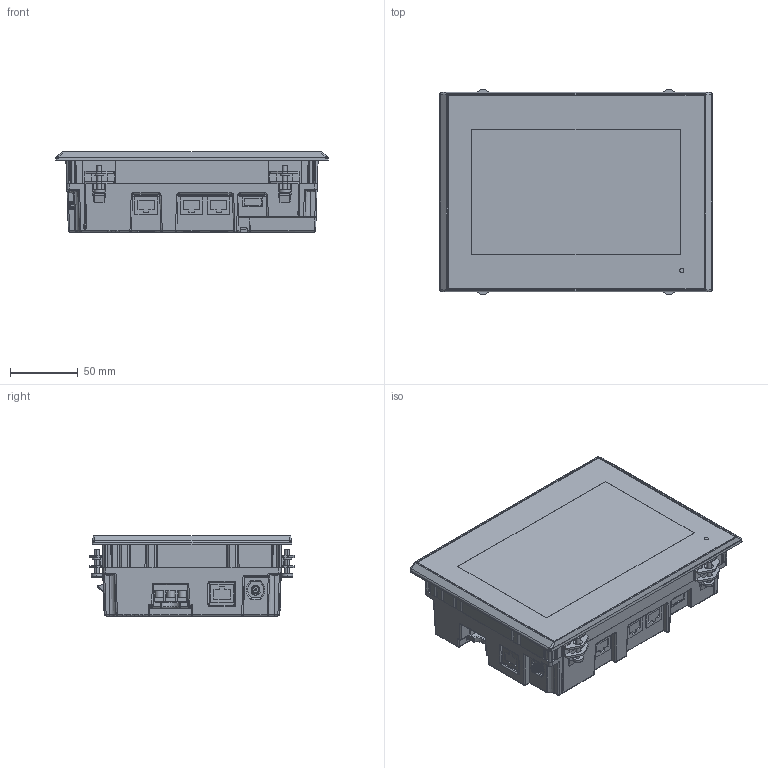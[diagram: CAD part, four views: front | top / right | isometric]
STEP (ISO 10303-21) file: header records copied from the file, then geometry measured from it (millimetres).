
FILE_DESCRIPTION((''),'2;1');
FILE_NAME('V9070IWRLD_3D-DATA_','2015-03-26T',('ichinose'),('Hakko Electronics Co.,Ltd.'),'PRO/ENGINEER BY PARAMETRIC TECHNOLOGY CORPORATION, 2011330','PRO/ENGINEER BY PARAMETRIC TECHNOLOGY CORPORATION, 2011330','');
FILE_SCHEMA(('CONFIG_CONTROL_DESIGN'));
Products named in the file (1): V9070IWRLD_3D-DATA_
Bounding box: 201.6 x 151.6 x 59.1 mm (x, y, z)
Volume: 1387625.9 mm3; surface area: 111915 mm2
Topology: 1 solids, 1 shells, 1898 faces, 5043 edges, 3192 vertices
Faces by surface type: plane 1197, cylinder 414, bspline 145, cone 67, sphere 43, torus 32
Entity records: 73353 total; most frequent: CARTESIAN_POINT 27723, ORIENTED_EDGE 10082, DIRECTION 8437, EDGE_CURVE 5041, VECTOR 3627, LINE 3627, VERTEX_POINT 3192, AXIS2_PLACEMENT_3D 2405
